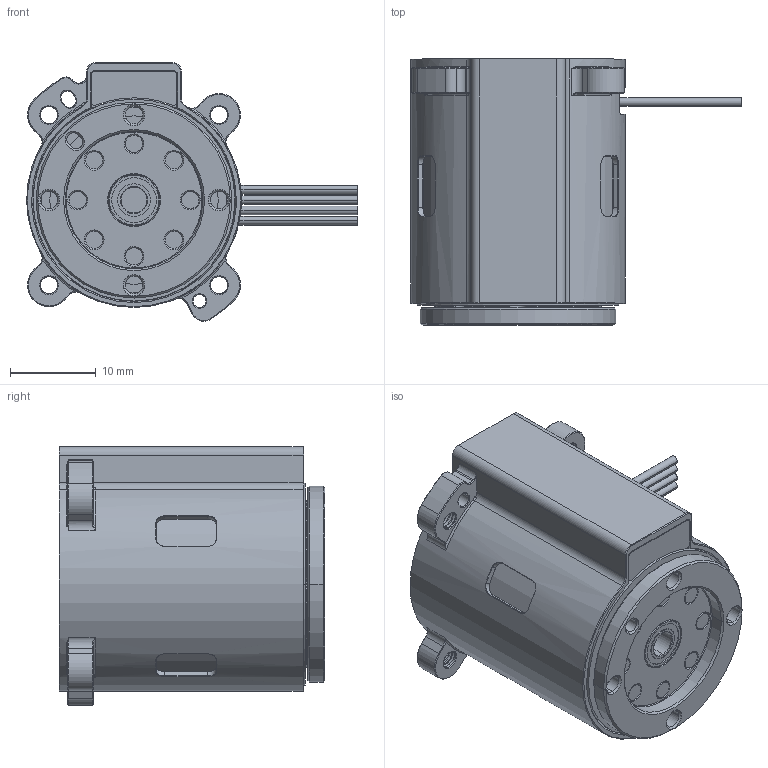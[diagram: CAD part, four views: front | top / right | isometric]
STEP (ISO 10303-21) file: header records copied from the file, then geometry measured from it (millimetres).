
FILE_DESCRIPTION((''),'2;1');
FILE_NAME('040100000002_ASM','2026-01-23T15:04:13',('wenbo'),(''),'CREO PARAMETRIC BY PTC INC, 2024325','CREO PARAMETRIC BY PTC INC, 2024325','');
FILE_SCHEMA(('CONFIG_CONTROL_DESIGN'));
Length unit declared in the file: millimetre
Products named in the file (17): 043000000003_218_1; 040400000003_ASM_92_ASM_1_ASM; 044100000002_11_1_1; 045400000003_16_1_1; 045400000001_28_1; 045600000001_65_1_1; 045000000001_ASM_54_ASM_1_1_ASM; 041600000003_ASM_18_ASM_1_1_ASM; 044200000004_167_1_1; 043500000003_17_1_1; 063500000001_3_1_1; 040600000001_ASM_38_ASM_1_1_ASM; 040100000002_ASM_314_ASM_1_ASM; ASM0005_ASM_1_ASM; YUANZHU; XIAO; 040100000002_ASM
Assembly tree (24 placements, depth 5):
  040100000002_ASM
    ASM0005_ASM_1_ASM
      040100000002_ASM_314_ASM_1_ASM
        040400000003_ASM_92_ASM_1_ASM
          043000000003_218_1
        044100000002_11_1_1
        045400000003_16_1_1  x2
        045400000001_28_1
        045600000001_65_1_1
        045000000001_ASM_54_ASM_1_1_ASM
        041600000003_ASM_18_ASM_1_1_ASM
        040600000001_ASM_38_ASM_1_1_ASM
          044200000004_167_1_1
          043500000003_17_1_1
          063500000001_3_1_1
    YUANZHU
    XIAO  x8
Bounding box: 38.5 x 30.95 x 30.12 mm (x, y, z)
Volume: 11831.2 mm3; surface area: 11914.6 mm2
Topology: 18 solids, 22 shells, 743 faces, 2038 edges, 1345 vertices
Faces by surface type: cylinder 251, plane 199, cone 161, bspline 93, torus 39
Entity records: 35184 total; most frequent: CARTESIAN_POINT 16731, ORIENTED_EDGE 3878, DIRECTION 3780, EDGE_CURVE 1957, AXIS2_PLACEMENT_3D 1513, VERTEX_POINT 1296, CIRCLE 844, EDGE_LOOP 787
